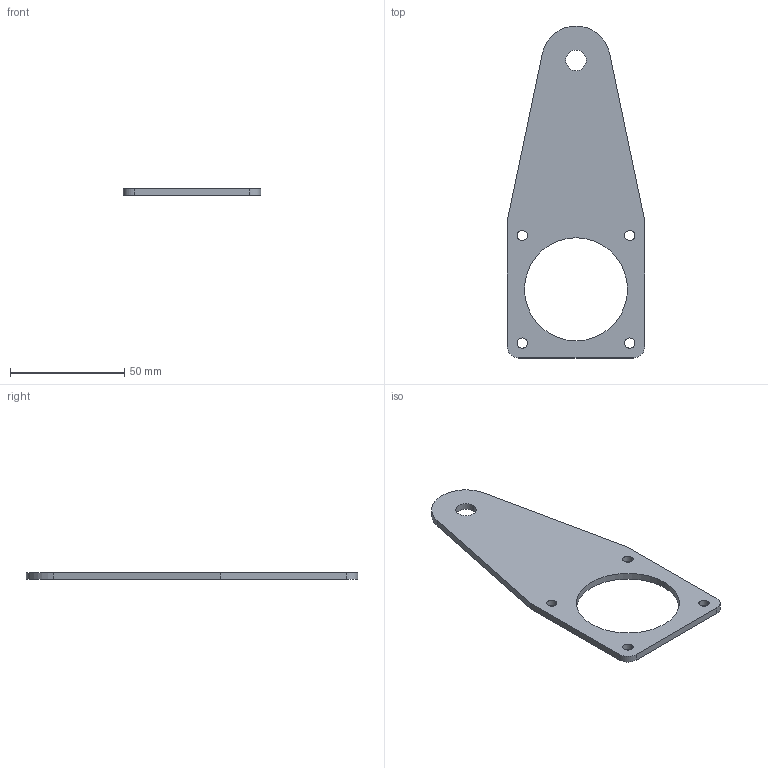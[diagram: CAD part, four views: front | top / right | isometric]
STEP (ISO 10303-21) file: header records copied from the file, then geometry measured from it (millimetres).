
FILE_DESCRIPTION (( 'STEP AP203' ), '1' );
FILE_NAME ('084.801.022.STEP', '2013-01-29T09:41:57', ( 'Alusic' ), ( 'Alusic' ), 'SwSTEP 2.0', 'SolidWorks 2011', '' );
FILE_SCHEMA (( 'CONFIG_CONTROL_DESIGN' ));
Length unit declared in the file: millimetre
Products named in the file (1): 084.801.022
Bounding box: 60 x 145 x 3 mm (x, y, z)
Volume: 16195.6 mm3; surface area: 12573.5 mm2
Topology: 1 solids, 1 shells, 22 faces, 60 edges, 40 vertices
Faces by surface type: cylinder 15, plane 7
Entity records: 815 total; most frequent: DIRECTION 136, CARTESIAN_POINT 123, ORIENTED_EDGE 120, EDGE_CURVE 60, AXIS2_PLACEMENT_3D 53, VERTEX_POINT 40, EDGE_LOOP 34, CIRCLE 30
